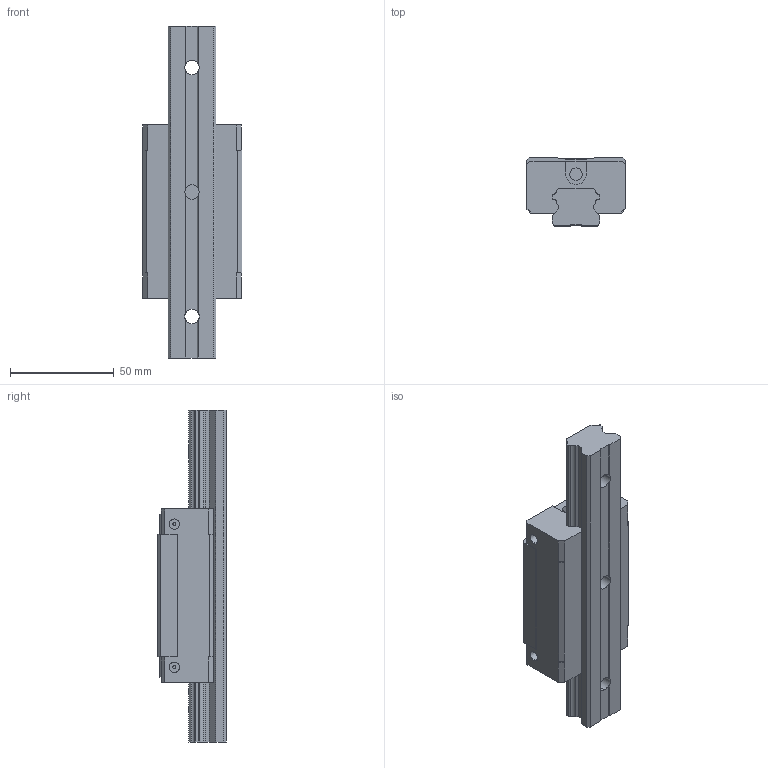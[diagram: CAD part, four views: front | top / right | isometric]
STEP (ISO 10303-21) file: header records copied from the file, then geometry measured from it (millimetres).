
FILE_DESCRIPTION((''),'2;1');
FILE_NAME('ASM0001_ASM','2008-07-11T',('brianyu'),(''),'PRO/ENGINEER BY PARAMETRIC TECHNOLOGY CORPORATION, 2004360','PRO/ENGINEER BY PARAMETRIC TECHNOLOGY CORPORATION, 2004360','');
FILE_SCHEMA(('CONFIG_CONTROL_DESIGN'));
Length unit declared in the file: millimetre
Products named in the file (4): PRT0002; PRT0003; ASM0002_ASM; ASM0001_ASM
Assembly tree (3 placements, depth 3):
  ASM0001_ASM
    ASM0002_ASM
      PRT0002
      PRT0003
Bounding box: 48 x 33 x 160 mm (x, y, z)
Volume: 137034.4 mm3; surface area: 33392.1 mm2
Topology: 2 solids, 2 shells, 176 faces, 494 edges, 340 vertices
Faces by surface type: plane 110, cylinder 66
Entity records: 5882 total; most frequent: CARTESIAN_POINT 1049, DIRECTION 996, ORIENTED_EDGE 988, EDGE_CURVE 494, VERTEX_POINT 340, VECTOR 338, LINE 338, AXIS2_PLACEMENT_3D 329
